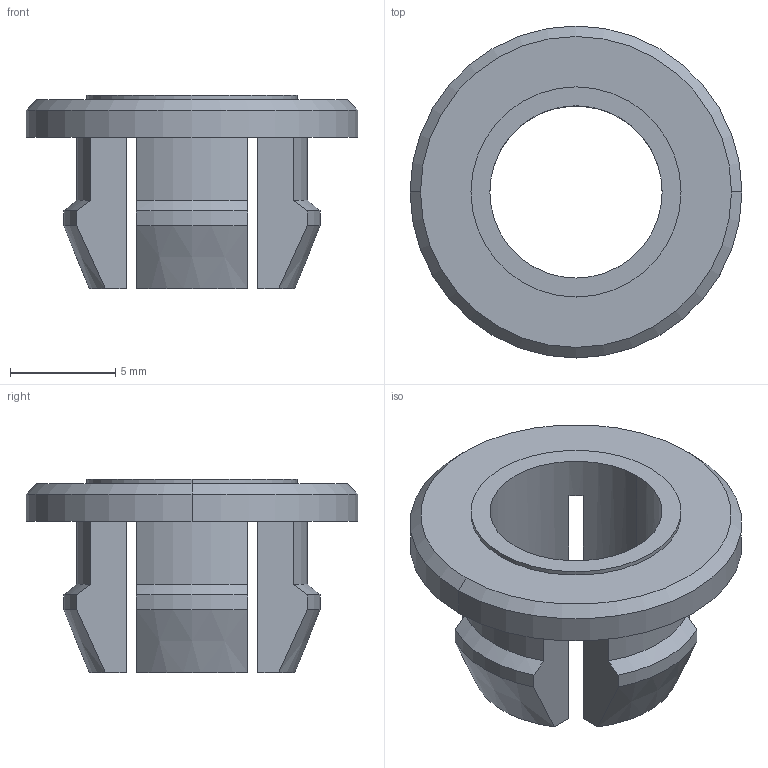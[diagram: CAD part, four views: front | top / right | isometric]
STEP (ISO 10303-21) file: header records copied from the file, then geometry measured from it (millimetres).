
FILE_DESCRIPTION((''),'2;1');
FILE_NAME('8SJ-RG008-0430','2016-07-07T',('Administrator'),(''),'PRO/ENGINEER BY PARAMETRIC TECHNOLOGY CORPORATION, 2009060','PRO/ENGINEER BY PARAMETRIC TECHNOLOGY CORPORATION, 2009060','');
FILE_SCHEMA(('CONFIG_CONTROL_DESIGN'));
Length unit declared in the file: millimetre
Products named in the file (1): 8SJ-RG008-0430
Bounding box: 15.8 x 15.8 x 9.2 mm (x, y, z)
Volume: 496.2 mm3; surface area: 844.3 mm2
Topology: 1 solids, 1 shells, 39 faces, 106 edges, 70 vertices
Faces by surface type: plane 15, cylinder 14, cone 10
Entity records: 1324 total; most frequent: CARTESIAN_POINT 283, ORIENTED_EDGE 212, DIRECTION 210, EDGE_CURVE 106, AXIS2_PLACEMENT_3D 81, VERTEX_POINT 70, VECTOR 48, LINE 48
